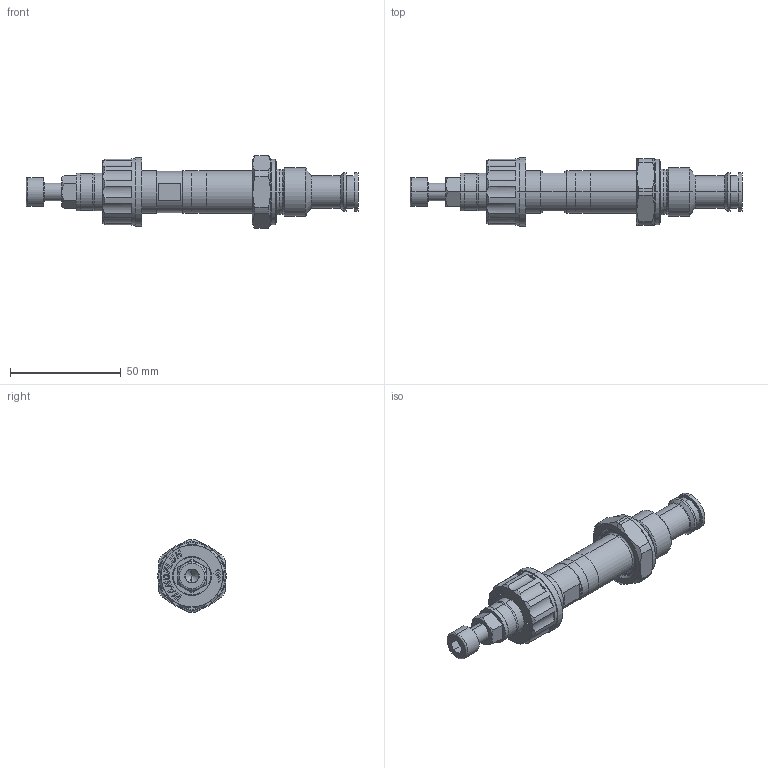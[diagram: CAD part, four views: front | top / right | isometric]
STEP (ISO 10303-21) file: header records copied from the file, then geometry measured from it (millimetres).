
FILE_DESCRIPTION (( 'STEP AP214' ), '1' );
FILE_NAME ('BDIPM22.STEP', '2014-03-19T09:21:39', ( '' ), ( '' ), 'SwSTEP 2.0', 'SolidWorks 2012', '' );
FILE_SCHEMA (( 'AUTOMOTIVE_DESIGN' ));
Length unit declared in the file: millimetre
Products named in the file (1): BDIPM22
Bounding box: 150.1 x 31 x 33 mm (x, y, z)
Volume: 48109.8 mm3; surface area: 18086.3 mm2
Topology: 6 solids, 6 shells, 360 faces, 855 edges, 531 vertices
Faces by surface type: plane 169, cylinder 78, cone 69, torus 28, bspline 16
Entity records: 15470 total; most frequent: CARTESIAN_POINT 3107, DIRECTION 1743, ORIENTED_EDGE 1706, EDGE_CURVE 853, AXIS2_PLACEMENT_3D 633, VERTEX_POINT 531, VECTOR 477, LINE 477
